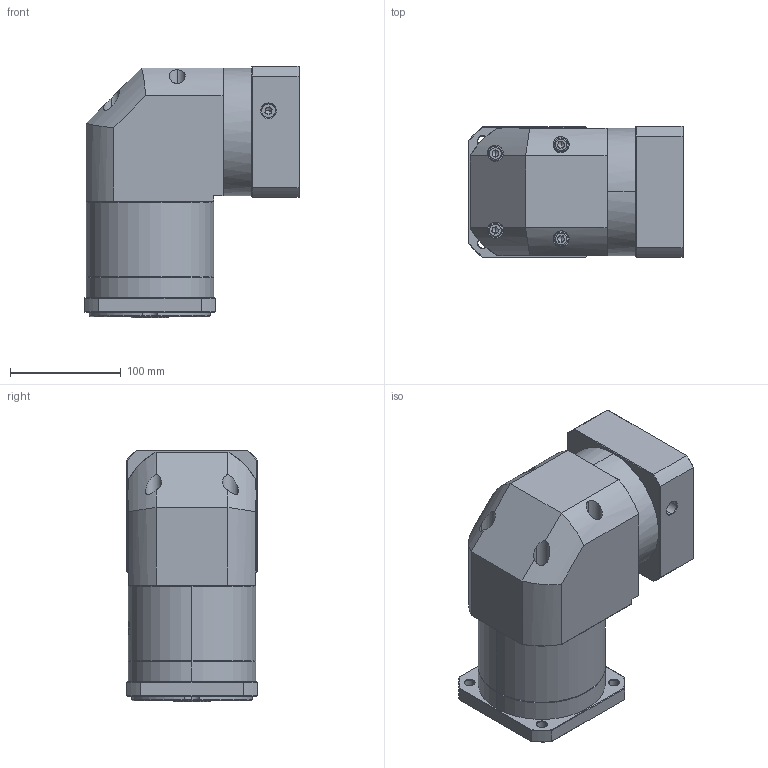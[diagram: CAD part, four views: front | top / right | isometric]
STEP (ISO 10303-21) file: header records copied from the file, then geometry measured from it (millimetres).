
FILE_DESCRIPTION (( 'STEP AP214' ), '1' );
FILE_NAME ('ZFR120A-K25-L2-P2-22-110-130-M8.step', '2023-08-27T08:15:18', ( '' ), ( '' ), 'SwSTEP 2.0', 'SolidWorks 2016', '' );
FILE_SCHEMA (( 'AUTOMOTIVE_DESIGN' ));
Length unit declared in the file: millimetre
Products named in the file (1): ZFR120A-K25-L2-P2-22-110-130-M8
Bounding box: 193.9 x 118 x 226.5 mm (x, y, z)
Volume: 3121075.6 mm3; surface area: 252588.2 mm2
Topology: 6 solids, 6 shells, 2210 faces, 5822 edges, 3717 vertices
Faces by surface type: plane 1054, bspline 416, cylinder 401, cone 331, torus 8
Entity records: 118681 total; most frequent: CARTESIAN_POINT 45093, ORIENTED_EDGE 11588, DIRECTION 8416, EDGE_CURVE 5794, VERTEX_POINT 3717, LINE 3106, VECTOR 3106, AXIS2_PLACEMENT_3D 2655
